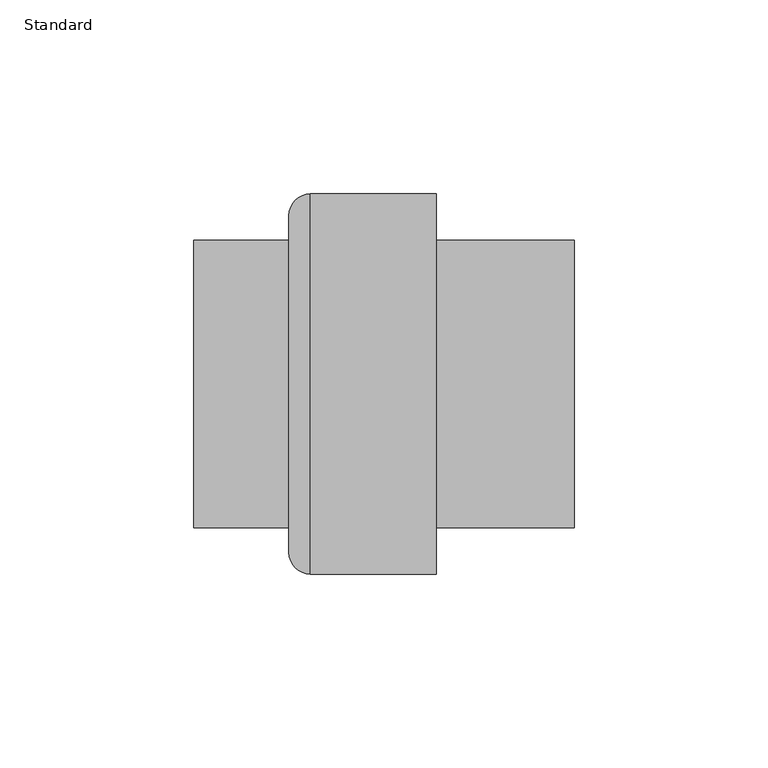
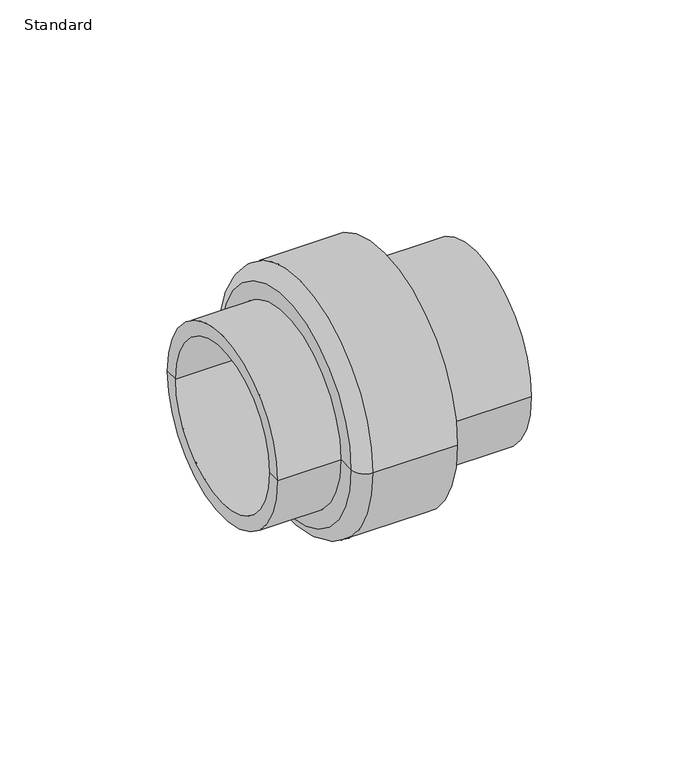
"""IFC4 building model written with IfcOpenShell, lengths in millimetres: pipe fitting geometry, Durapipe_PipeFitting_PVC_SocketUnions : Standard."""

from ifc_helpers import new_model, si_unit, point, frame, origin, place, context, project, spatial, polyline, circle_curve, ellipse_curve, trimmed, source, transform, mapped, element, save
from ifc_brep_helpers import plane_surface, cylinder_surface, revolved_surface, advanced_brep


def standard_19096138(model_context):
    return source(origin(), model_context, "Body", "AdvancedBrep", [
        advanced_brep(
        [(-49.0, -37.0, 0.0), (-49.0, 37.0, 0.0), (-49.0, 43.5, 0.0), (-49.0, -43.5, 0.0), (-11.0, -49.0, 0.0), (-11.0, 49.0, 0.0), (-11.0, 37.0, 0.0), (-11.0, -37.0, 0.0), (-43.5, -49.0, 0.0), (-43.5, 49.0, 0.0)],
        [
            (0, 1, circle_curve(frame((-49.0, 0.0, 0.0), z_axis=(1.0, 0.0, 0.0), x_axis=(0.0, 1.0, 0.0)), 37.0)),
            (1, 2),
            (2, 3, circle_curve(frame((-49.0, 0.0, 0.0), z_axis=(-1.0, 0.0, 0.0), x_axis=(0.0, 1.0, 0.0)), 43.5)),
            (3, 0),
            (1, 0, circle_curve(frame((-49.0, 0.0, 0.0), z_axis=(1.0, 0.0, 0.0), x_axis=(0.0, 1.0, 0.0)), 37.0)),
            (3, 2, circle_curve(frame((-49.0, 0.0, 0.0), z_axis=(-1.0, 0.0, 0.0), x_axis=(0.0, 1.0, 0.0)), 43.5)),
            (4, 5, circle_curve(frame((-11.0, 0.0, 0.0), z_axis=(1.0, 0.0, 0.0), x_axis=(0.0, 1.0, 0.0)), 49.0)),
            (5, 6),
            (6, 7, circle_curve(frame((-11.0, 0.0, 0.0), z_axis=(-1.0, 0.0, 0.0), x_axis=(0.0, 1.0, 0.0)), 37.0)),
            (7, 4),
            (5, 4, circle_curve(frame((-11.0, 0.0, 0.0), z_axis=(1.0, 0.0, 0.0), x_axis=(0.0, 1.0, 0.0)), 49.0)),
            (7, 6, circle_curve(frame((-11.0, 0.0, 0.0), z_axis=(-1.0, 0.0, 0.0), x_axis=(0.0, 1.0, 0.0)), 37.0)),
            (8, 9, circle_curve(frame((-43.5, 0.0, 0.0), z_axis=(1.0, 0.0, 0.0), x_axis=(0.0, 1.0, 0.0)), 49.0)),
            (9, 5),
            (4, 8),
            (9, 8, circle_curve(frame((-43.5, 0.0, 0.0), z_axis=(1.0, 0.0, 0.0), x_axis=(0.0, 1.0, 0.0)), 49.0)),
            (2, 9, circle_curve(frame((-43.5, 43.5, 0.0), z_axis=(0.0, 0.0, -1.0), x_axis=(1.0, 0.0, 0.0)), 5.5)),
            (8, 3, circle_curve(frame((-43.5, -43.5, 0.0), z_axis=(0.0, 0.0, -1.0), x_axis=(1.0, 0.0, 0.0)), 5.5)),
            (6, 1),
            (0, 7),
        ],
        [
            plane_surface(frame((-49.0, 0.0, 0.0), z_axis=(-1.0, 0.0, 0.0), x_axis=(0.0, 1.0, 0.0))),
            plane_surface(frame((-11.0, 0.0, 0.0), z_axis=(1.0, 0.0, 0.0), x_axis=(0.0, 1.0, 0.0))),
            cylinder_surface(frame((2000.0, 0.0, 0.0), z_axis=(-1.0, 0.0, 0.0), x_axis=(0.0, 1.0, 0.0)), 49.0),
            revolved_surface(trimmed(ellipse_curve(frame((-43.5, 43.5, 0.0), z_axis=(0.0, 0.0, 1.0), x_axis=(1.0, 0.0, 0.0)), 5.5, 5.5), [point((-43.5, 49.0, 0.0))], [point((-49.0, 43.5, 0.0))], True, "CARTESIAN"), (2000.0, 0.0, 0.0), (-1.0, 0.0, 0.0)),
            revolved_surface(polyline([(-49.0, 37.0, 0.0), (-11.0, 37.0, 0.0)]), (2000.0, 0.0, 0.0), (-1.0, 0.0, 0.0)),
        ],
        [
            (0, [[1, 2, 3, 4]]),
            (0, [[5, -4, 6, -2]]),
            (1, [[7, 8, 9, 10]]),
            (1, [[11, -10, 12, -8]]),
            (2, [[13, 14, -7, 15]]),
            (2, [[16, -15, -11, -14]]),
            (3, [[-3, 17, -13, 18]]),
            (3, [[-6, -18, -16, -17]]),
            (4, [[-9, 19, -1, 20]]),
            (4, [[-12, -20, -5, -19]]),
        ],
    ),
        advanced_brep(
        [(-35.5, -31.5, 0.0), (-35.5, 31.5, 0.0), (-73.5, 31.5, 0.0), (-73.5, -31.5, 0.0), (-35.5, 0.0, 0.0), (-13.5, -31.5, 0.0), (-13.5, 31.5, 0.0), (-13.5, 0.0, 0.0), (-73.5, -37.0, 0.0), (-73.5, 37.0, 0.0), (24.5, 37.0, 0.0), (24.5, -37.0, 0.0), (24.5, -31.5, 0.0), (24.5, 31.5, 0.0)],
        [
            (0, 1, circle_curve(frame((-35.5, 0.0, 0.0), z_axis=(1.0, 0.0, 0.0), x_axis=(0.0, 1.0, 0.0)), 31.5)),
            (1, 2),
            (2, 3, circle_curve(frame((-73.5, 0.0, 0.0), z_axis=(-1.0, 0.0, 0.0), x_axis=(0.0, 1.0, 0.0)), 31.5)),
            (3, 0),
            (1, 0, circle_curve(frame((-35.5, 0.0, 0.0), z_axis=(1.0, 0.0, 0.0), x_axis=(0.0, 1.0, 0.0)), 31.5)),
            (3, 2, circle_curve(frame((-73.5, 0.0, 0.0), z_axis=(-1.0, 0.0, 0.0), x_axis=(0.0, 1.0, 0.0)), 31.5)),
            (4, 1),
            (0, 4),
            (5, 6, circle_curve(frame((-13.5, 0.0, 0.0), z_axis=(1.0, 0.0, 0.0), x_axis=(0.0, 1.0, 0.0)), 31.5)),
            (6, 7),
            (7, 5),
            (6, 5, circle_curve(frame((-13.5, 0.0, 0.0), z_axis=(1.0, 0.0, 0.0), x_axis=(0.0, 1.0, 0.0)), 31.5)),
            (8, 9, circle_curve(frame((-73.5, 0.0, 0.0), z_axis=(1.0, 0.0, 0.0), x_axis=(0.0, 1.0, 0.0)), 37.0)),
            (9, 10),
            (10, 11, circle_curve(frame((24.5, 0.0, 0.0), z_axis=(-1.0, 0.0, 0.0), x_axis=(0.0, 1.0, 0.0)), 37.0)),
            (11, 8),
            (9, 8, circle_curve(frame((-73.5, 0.0, 0.0), z_axis=(1.0, 0.0, 0.0), x_axis=(0.0, 1.0, 0.0)), 37.0)),
            (11, 10, circle_curve(frame((24.5, 0.0, 0.0), z_axis=(-1.0, 0.0, 0.0), x_axis=(0.0, 1.0, 0.0)), 37.0)),
            (2, 9),
            (8, 3),
            (12, 13, circle_curve(frame((24.5, 0.0, 0.0), z_axis=(1.0, 0.0, 0.0), x_axis=(0.0, 1.0, 0.0)), 31.5)),
            (13, 6),
            (5, 12),
            (13, 12, circle_curve(frame((24.5, 0.0, 0.0), z_axis=(1.0, 0.0, 0.0), x_axis=(0.0, 1.0, 0.0)), 31.5)),
            (10, 13),
            (12, 11),
        ],
        [
            revolved_surface(polyline([(-73.5, 31.5, 0.0), (-35.5, 31.5, 0.0)]), (2000.0, 0.0, 0.0), (-1.0, 0.0, 0.0)),
            plane_surface(frame((-35.5, 0.0, 0.0), z_axis=(-1.0, 0.0, 0.0), x_axis=(0.0, 1.0, 0.0))),
            plane_surface(frame((-13.5, 0.0, 0.0), z_axis=(1.0, 0.0, 0.0), x_axis=(0.0, 1.0, 0.0))),
            cylinder_surface(frame((2000.0, 0.0, 0.0), z_axis=(-1.0, 0.0, 0.0), x_axis=(0.0, 1.0, 0.0)), 37.0),
            plane_surface(frame((-73.5, 0.0, 0.0), z_axis=(-1.0, 0.0, 0.0), x_axis=(0.0, 1.0, 0.0))),
            revolved_surface(polyline([(-13.5, 31.5, 0.0), (24.5, 31.5, 0.0)]), (2000.0, 0.0, 0.0), (-1.0, 0.0, 0.0)),
            plane_surface(frame((24.5, 0.0, 0.0), z_axis=(1.0, 0.0, 0.0), x_axis=(0.0, 1.0, 0.0))),
        ],
        [
            (0, [[1, 2, 3, 4]]),
            (0, [[5, -4, 6, -2]]),
            (1, [[7, -1, 8]]),
            (1, [[-8, -5, -7]]),
            (2, [[9, 10, 11]]),
            (2, [[12, -11, -10]]),
            (3, [[13, 14, 15, 16]]),
            (3, [[17, -16, 18, -14]]),
            (4, [[-3, 19, -13, 20]]),
            (4, [[-6, -20, -17, -19]]),
            (5, [[21, 22, -9, 23]]),
            (5, [[24, -23, -12, -22]]),
            (6, [[-15, 25, -21, 26]]),
            (6, [[-18, -26, -24, -25]]),
        ],
    ),
    ])


if __name__ == "__main__":
    model = new_model("IFC4")
    model_context = context("Model", 3, world=origin())
    ifc_project = project(units=[si_unit("LENGTHUNIT", "METRE", prefix="MILLI")], contexts=[model_context])
    site = spatial("IfcSite", under=ifc_project)
    building = spatial("IfcBuilding", under=site)
    placement = place(None, origin())
    standard_shape = standard_19096138(model_context)
    element("IfcPipeFitting", 1, ObjectType="Durapipe_PipeFitting_PVC_SocketUnions : Standard", at=placement, inside=building, context=model_context, shape_type="MappedRepresentation", body=[
        mapped(standard_shape, transform((0.0, 0.0, 0.0), x_axis=(1.0, 0.0, 0.0), y_axis=(0.0, 1.0, 0.0), z_axis=(0.0, 0.0, 1.0))),
    ])
    save(model, "model.ifc")
